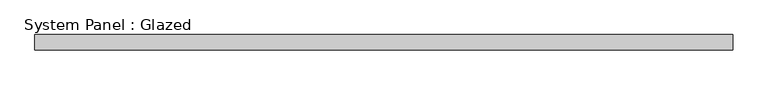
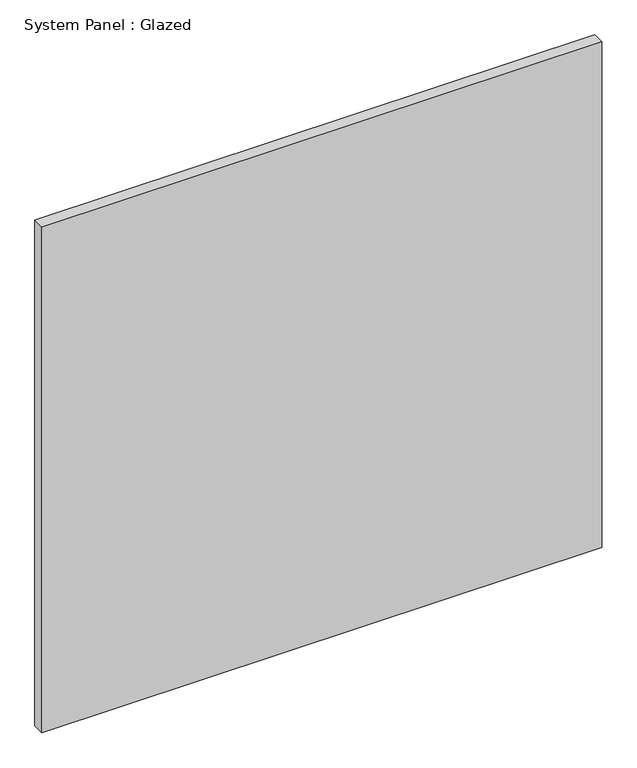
"""IFC4 building model written with IfcOpenShell, lengths in millimetres: plate geometry, System Panel : Glazed."""

from ifc_helpers import new_model, si_unit, origin, origin_with_axes, place, context, project, spatial, polyline, outline, extrude, source, transform, mapped, element, save


def system_panel_glazed_61ef3558(model_context):
    return source(origin(), model_context, "Body", "SweptSolid", [
        extrude(outline(polyline([(574.9234393, 24.5), (-574.9234393, 24.5), (-574.9234393, 49.5), (574.9234393, 49.5), (574.9234393, 24.5)])), origin_with_axes(), (0.0, 0.0, 1.0), 1098.2453384),
    ])


if __name__ == "__main__":
    model = new_model("IFC4")
    model_context = context("Model", 3, world=origin())
    ifc_project = project(units=[si_unit("LENGTHUNIT", "METRE", prefix="MILLI")], contexts=[model_context])
    site = spatial("IfcSite", under=ifc_project)
    building = spatial("IfcBuilding", under=site)
    placement = place(None, origin())
    system_panel_glazed_shape = system_panel_glazed_61ef3558(model_context)
    element("IfcPlate", 1, ObjectType="System Panel : Glazed", at=placement, inside=building, context=model_context, shape_type="MappedRepresentation", body=[
        mapped(system_panel_glazed_shape, transform((0.0, 0.0, 0.0), x_axis=(1.0, 0.0, 0.0), y_axis=(0.0, 1.0, 0.0), z_axis=(0.0, 0.0, 1.0))),
    ])
    save(model, "model.ifc")
